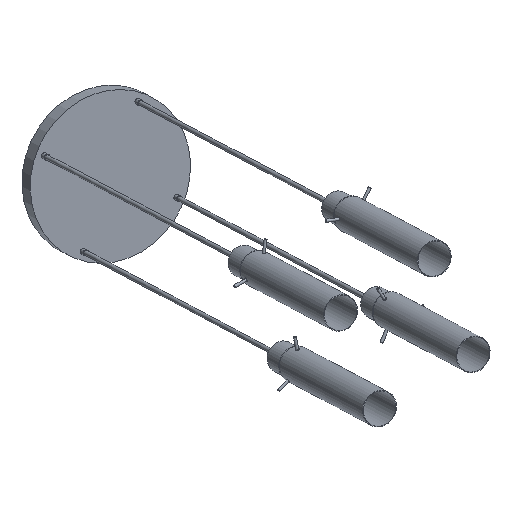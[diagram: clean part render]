
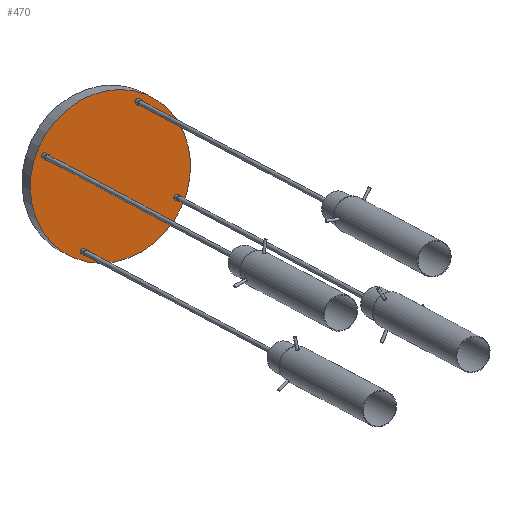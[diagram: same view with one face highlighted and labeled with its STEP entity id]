
A CAD part, top view. The second image highlights one B-rep face of the part: STEP entity #470.
In plain terms, the highlighted planar face has unit normal (0.445, -0.238, 0.863) as drawn and (0, 0, 1) by its records, which use the part's own axes.
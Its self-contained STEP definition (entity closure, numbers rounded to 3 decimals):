
#96=PLANE('',#564);
#114=FACE_BOUND('',#193,.T.);
#115=FACE_BOUND('',#194,.T.);
#116=FACE_BOUND('',#195,.T.);
#117=FACE_BOUND('',#196,.T.);
#152=FACE_OUTER_BOUND('',#192,.T.);
#192=EDGE_LOOP('',(#353));
#193=EDGE_LOOP('',(#354));
#194=EDGE_LOOP('',(#355));
#195=EDGE_LOOP('',(#356));
#196=EDGE_LOOP('',(#357));
#246=CIRCLE('',#546,5.);
#248=CIRCLE('',#550,5.);
#250=CIRCLE('',#554,5.);
#252=CIRCLE('',#558,5.);
#253=CIRCLE('',#561,142.5);
#271=VERTEX_POINT('',#790);
#273=VERTEX_POINT('',#796);
#275=VERTEX_POINT('',#802);
#277=VERTEX_POINT('',#808);
#278=VERTEX_POINT('',#812);
#305=EDGE_CURVE('',#271,#271,#246,.T.);
#307=EDGE_CURVE('',#273,#273,#248,.T.);
#309=EDGE_CURVE('',#275,#275,#250,.T.);
#311=EDGE_CURVE('',#277,#277,#252,.T.);
#312=EDGE_CURVE('',#278,#278,#253,.T.);
#353=ORIENTED_EDGE('',*,*,#312,.T.);
#354=ORIENTED_EDGE('',*,*,#305,.T.);
#355=ORIENTED_EDGE('',*,*,#307,.T.);
#356=ORIENTED_EDGE('',*,*,#309,.T.);
#357=ORIENTED_EDGE('',*,*,#311,.T.);
#470=ADVANCED_FACE('',(#152,#114,#115,#116,#117),#96,.T.);
#546=AXIS2_PLACEMENT_3D('',#791,#631,#632);
#550=AXIS2_PLACEMENT_3D('',#797,#639,#640);
#554=AXIS2_PLACEMENT_3D('',#803,#647,#648);
#558=AXIS2_PLACEMENT_3D('',#809,#655,#656);
#561=AXIS2_PLACEMENT_3D('',#813,#661,#662);
#564=AXIS2_PLACEMENT_3D('',#817,#667,#668);
#631=DIRECTION('center_axis',(0.,0.,-1.));
#632=DIRECTION('ref_axis',(0.,1.,0.));
#639=DIRECTION('center_axis',(0.,0.,-1.));
#640=DIRECTION('ref_axis',(1.,0.,0.));
#647=DIRECTION('center_axis',(0.,0.,-1.));
#648=DIRECTION('ref_axis',(0.,-1.,0.));
#655=DIRECTION('center_axis',(0.,0.,-1.));
#656=DIRECTION('ref_axis',(-1.,0.,0.));
#661=DIRECTION('center_axis',(0.,0.,1.));
#662=DIRECTION('ref_axis',(-1.,0.,0.));
#667=DIRECTION('center_axis',(0.,0.,1.));
#668=DIRECTION('ref_axis',(1.,0.,0.));
#790=CARTESIAN_POINT('',(90.312,85.,30.));
#791=CARTESIAN_POINT('Origin',(90.312,90.,30.));
#796=CARTESIAN_POINT('',(85.,-90.312,30.));
#797=CARTESIAN_POINT('Origin',(90.,-90.312,30.));
#802=CARTESIAN_POINT('',(-90.312,-85.,30.));
#803=CARTESIAN_POINT('Origin',(-90.312,-90.,30.));
#808=CARTESIAN_POINT('',(-85.,90.312,30.));
#809=CARTESIAN_POINT('Origin',(-90.,90.312,30.));
#812=CARTESIAN_POINT('',(142.5,0.,30.));
#813=CARTESIAN_POINT('Origin',(0.,0.,30.));
#817=CARTESIAN_POINT('Origin',(0.,0.,30.));
